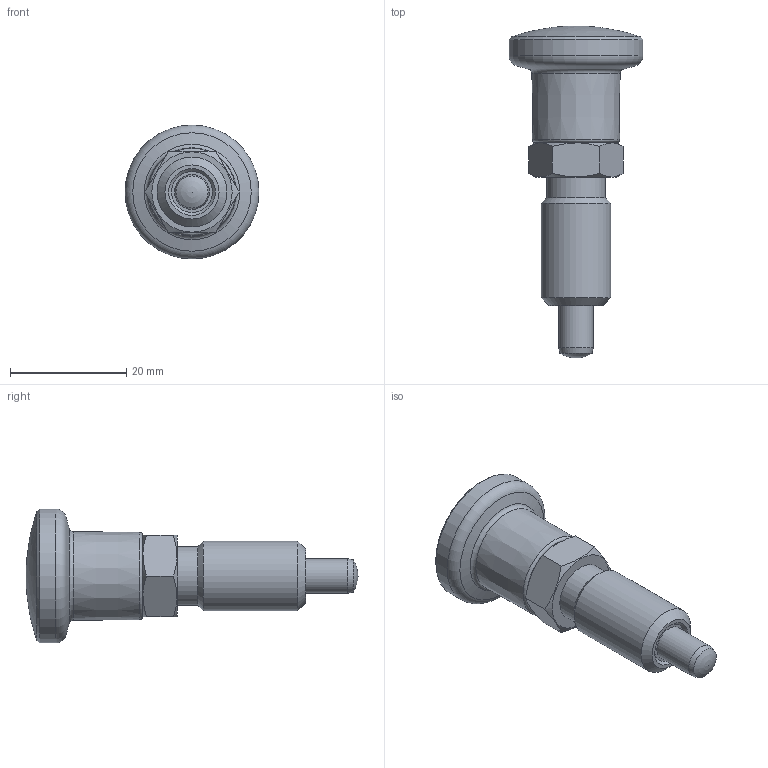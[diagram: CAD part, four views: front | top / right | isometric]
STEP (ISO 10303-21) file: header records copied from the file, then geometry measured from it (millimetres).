
FILE_DESCRIPTION( ( 'STEP AP203' ), '1' );
FILE_NAME( 'C:/Temp/Ganter_Step_05_03_2020/data/3_1/gn817/gn817_ni-rastbolzen_rot/Stainless steel-Indexing plunger GN 817-6-9-B-NI-RT (deactivated).stp', '2020-03-12T09:00:16', ( 'License CC BY-ND 4.0' ), ( 'CADENAS' ), ' ', 'PARTsolutions', ' ' );
FILE_SCHEMA( ( 'CONFIG_CONTROL_DESIGN' ) );
Length unit declared in the file: millimetre
Products named in the file (4): Stainless steel-Indexing plunger GN 817-6-9-B-NI-RT (deactivated); _Stainless steel-Indexing plunger GN 817-6-9-B-NI-RT (deactivated)-d; _Stainless steel-Indexing plunger GN 817-6-9-B-NI-RT-2; _Stainless Steel Indexing plunger GN 817-6-9-B-NI-RT-1
Assembly tree (3 placements, depth 2):
  Stainless steel-Indexing plunger GN 817-6-9-B-NI-RT (deactivated)
    _Stainless steel-Indexing plunger GN 817-6-9-B-NI-RT (deactivated)-d
    _Stainless steel-Indexing plunger GN 817-6-9-B-NI-RT-2
    _Stainless Steel Indexing plunger GN 817-6-9-B-NI-RT-1
Bounding box: 23 x 57 x 23 mm (x, y, z)
Volume: 8193.2 mm3; surface area: 4395.2 mm2
Topology: 2 solids, 2 shells, 38 faces, 76 edges, 46 vertices
Faces by surface type: plane 13, cone 10, cylinder 8, torus 5, bspline 1, sphere 1
Full cylindrical faces by diameter (mm): 5 x2, 6 x1, 7 x2, 10.1 x1, 12 x1, 23 x1
Entity records: 1098 total; most frequent: CARTESIAN_POINT 286, DIRECTION 148, ORIENTED_EDGE 96, AXIS2_PLACEMENT_3D 71, EDGE_LOOP 68, FACE_OUTER_BOUND 51, EDGE_CURVE 48, VERTEX_POINT 44
